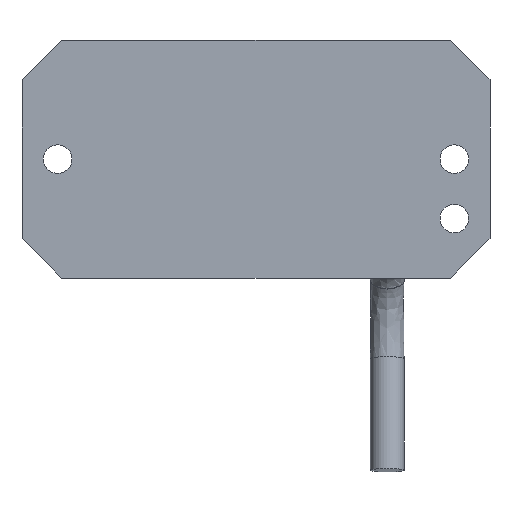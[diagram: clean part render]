
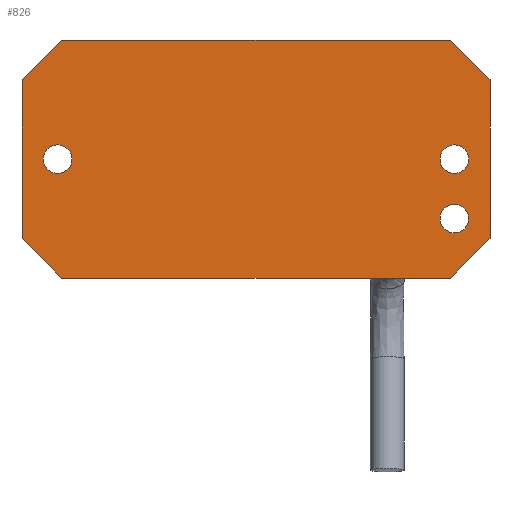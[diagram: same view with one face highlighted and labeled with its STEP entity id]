
A CAD part, front view. The second image highlights one B-rep face of the part: STEP entity #826.
In plain terms, the highlighted planar face has unit normal (0, -1, 0).
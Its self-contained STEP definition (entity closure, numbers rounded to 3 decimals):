
#44=FACE_BOUND('',#134,.T.);
#45=FACE_BOUND('',#135,.T.);
#46=FACE_BOUND('',#136,.T.);
#84=FACE_OUTER_BOUND('',#133,.T.);
#133=EDGE_LOOP('',(#729,#730,#731,#732,#733,#734,#735,#736));
#134=EDGE_LOOP('',(#737));
#135=EDGE_LOOP('',(#738));
#136=EDGE_LOOP('',(#739));
#156=LINE('',#1213,#232);
#165=LINE('',#1241,#241);
#169=LINE('',#1250,#245);
#173=LINE('',#1257,#249);
#181=LINE('',#1285,#257);
#186=LINE('',#1294,#262);
#187=LINE('',#1296,#263);
#217=LINE('',#1382,#293);
#232=VECTOR('',#969,10.);
#241=VECTOR('',#992,10.);
#245=VECTOR('',#998,10.);
#249=VECTOR('',#1004,10.);
#257=VECTOR('',#1028,10.);
#262=VECTOR('',#1035,10.);
#263=VECTOR('',#1038,10.);
#293=VECTOR('',#1140,10.);
#323=CIRCLE('',#909,2.286);
#324=CIRCLE('',#911,2.286);
#325=CIRCLE('',#913,2.286);
#349=VERTEX_POINT('',#1210);
#350=VERTEX_POINT('',#1212);
#362=VERTEX_POINT('',#1240);
#365=VERTEX_POINT('',#1247);
#366=VERTEX_POINT('',#1249);
#368=VERTEX_POINT('',#1255);
#380=VERTEX_POINT('',#1283);
#383=VERTEX_POINT('',#1292);
#401=VERTEX_POINT('',#1370);
#402=VERTEX_POINT('',#1374);
#403=VERTEX_POINT('',#1378);
#431=EDGE_CURVE('',#349,#350,#156,.T.);
#445=EDGE_CURVE('',#362,#350,#165,.T.);
#449=EDGE_CURVE('',#365,#366,#169,.T.);
#453=EDGE_CURVE('',#365,#368,#173,.T.);
#467=EDGE_CURVE('',#380,#368,#181,.T.);
#472=EDGE_CURVE('',#380,#383,#186,.T.);
#473=EDGE_CURVE('',#362,#383,#187,.T.);
#511=EDGE_CURVE('',#401,#401,#323,.T.);
#513=EDGE_CURVE('',#402,#402,#324,.T.);
#515=EDGE_CURVE('',#403,#403,#325,.T.);
#516=EDGE_CURVE('',#349,#366,#217,.T.);
#729=ORIENTED_EDGE('',*,*,#431,.F.);
#730=ORIENTED_EDGE('',*,*,#516,.T.);
#731=ORIENTED_EDGE('',*,*,#449,.F.);
#732=ORIENTED_EDGE('',*,*,#453,.T.);
#733=ORIENTED_EDGE('',*,*,#467,.F.);
#734=ORIENTED_EDGE('',*,*,#472,.T.);
#735=ORIENTED_EDGE('',*,*,#473,.F.);
#736=ORIENTED_EDGE('',*,*,#445,.T.);
#737=ORIENTED_EDGE('',*,*,#515,.F.);
#738=ORIENTED_EDGE('',*,*,#513,.F.);
#739=ORIENTED_EDGE('',*,*,#511,.F.);
#787=PLANE('',#915);
#826=ADVANCED_FACE('',(#84,#44,#45,#46),#787,.F.);
#909=AXIS2_PLACEMENT_3D('',#1372,#1126,#1127);
#911=AXIS2_PLACEMENT_3D('',#1376,#1131,#1132);
#913=AXIS2_PLACEMENT_3D('',#1380,#1136,#1137);
#915=AXIS2_PLACEMENT_3D('',#1383,#1141,#1142);
#969=DIRECTION('',(-0.707,0.,0.707));
#992=DIRECTION('',(0.,0.,-1.));
#998=DIRECTION('',(-0.707,0.,-0.707));
#1004=DIRECTION('',(0.,0.,1.));
#1028=DIRECTION('',(0.707,0.,-0.707));
#1035=DIRECTION('',(-1.,0.,0.));
#1038=DIRECTION('',(0.707,0.,0.707));
#1126=DIRECTION('center_axis',(0.,-1.,0.));
#1127=DIRECTION('ref_axis',(1.,0.,0.));
#1131=DIRECTION('center_axis',(0.,-1.,0.));
#1132=DIRECTION('ref_axis',(1.,0.,0.));
#1136=DIRECTION('center_axis',(0.,-1.,0.));
#1137=DIRECTION('ref_axis',(1.,0.,0.));
#1140=DIRECTION('',(1.,0.,0.));
#1141=DIRECTION('center_axis',(0.,1.,0.));
#1142=DIRECTION('ref_axis',(1.,0.,0.));
#1210=CARTESIAN_POINT('',(0.635,0.,-19.05));
#1212=CARTESIAN_POINT('',(-5.715,0.,-12.7));
#1213=CARTESIAN_POINT('',(2.064,0.,-20.479));
#1240=CARTESIAN_POINT('',(-5.715,0.,12.7));
#1241=CARTESIAN_POINT('',(-5.715,0.,19.05));
#1247=CARTESIAN_POINT('',(69.215,0.,-12.7));
#1249=CARTESIAN_POINT('',(62.865,0.,-19.05));
#1250=CARTESIAN_POINT('',(61.436,0.,-20.479));
#1255=CARTESIAN_POINT('',(69.215,0.,12.7));
#1257=CARTESIAN_POINT('',(69.215,0.,-19.05));
#1283=CARTESIAN_POINT('',(62.865,0.,19.05));
#1285=CARTESIAN_POINT('',(61.436,0.,20.479));
#1292=CARTESIAN_POINT('',(0.635,0.,19.05));
#1294=CARTESIAN_POINT('',(69.215,0.,19.05));
#1296=CARTESIAN_POINT('',(2.064,0.,20.479));
#1370=CARTESIAN_POINT('',(-2.286,0.,0.));
#1372=CARTESIAN_POINT('Origin',(0.,0.,0.));
#1374=CARTESIAN_POINT('',(61.214,0.,-9.525));
#1376=CARTESIAN_POINT('Origin',(63.5,0.,-9.525));
#1378=CARTESIAN_POINT('',(61.214,0.,0.));
#1380=CARTESIAN_POINT('Origin',(63.5,0.,0.));
#1382=CARTESIAN_POINT('',(-5.715,0.,-19.05));
#1383=CARTESIAN_POINT('Origin',(31.75,0.,0.));
